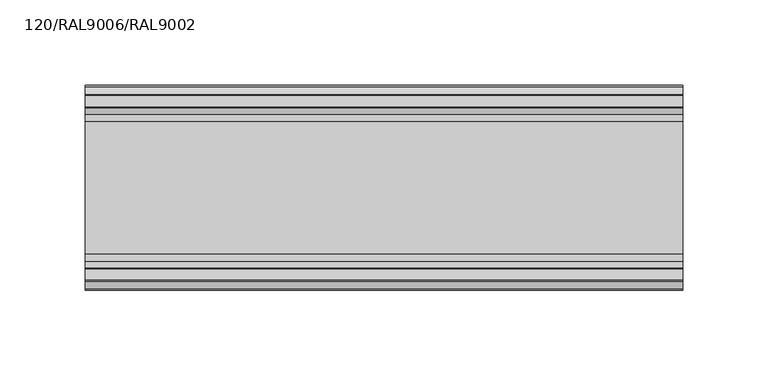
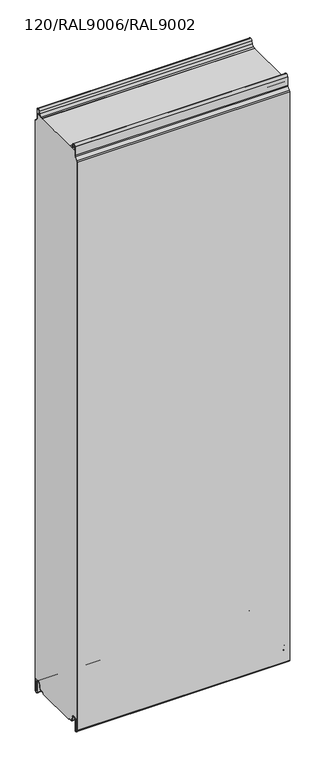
"""IFC4 building model written with IfcOpenShell, lengths in millimetres: plate geometry, TR_C_H_FTV_Panel : 120/RAL9006/RAL9002."""

from ifc_helpers import new_model, si_unit, point, frame, frame_2d, origin, place, context, project, spatial, polyline, circle_curve, trimmed, segment, composite_curve, outline, extrude, source, transform, mapped, element, save


def plate_120_ral9006_ral9002_3762bd6a(model_context):
    return source(origin(), model_context, "Body", "SweptSolid", [
        extrude(outline(composite_curve([segment(polyline([(-0.8, 14.4000012), (-9.45, 14.4000012)]), True, "CONTINUOUS"), segment(trimmed(circle_curve(frame_2d((-9.45, 10.1500012)), 4.25), [point((-9.45, 14.4000012))], [point((-13.635433, 10.8880059))], True, "CARTESIAN"), True, "CONTINUOUS"), segment(polyline([(-13.635433, 10.8880059), (-14.7022582, 4.837739)]), True, "CONTINUOUS"), segment(trimmed(circle_curve(frame_2d((-17.6074411, 5.3500012)), 2.95), [point((-14.7022582, 4.837739))], [point((-17.6074411, 2.4000012))], False, "CARTESIAN"), True, "CONTINUOUS"), segment(polyline([(-17.6074411, 2.4000012), (-23.7, 2.4000012), (-23.7, 1.2e-06), (-96.3, 1.2e-06), (-96.3, 2.4000012), (-102.3925589, 2.4000012)]), True, "CONTINUOUS"), segment(trimmed(circle_curve(frame_2d((-102.3925589, 5.3500012)), 2.95), [point((-102.3925589, 2.4000012))], [point((-105.2977418, 4.837739))], False, "CARTESIAN"), True, "CONTINUOUS"), segment(polyline([(-105.2977418, 4.837739), (-106.364567, 10.8880059)]), True, "CONTINUOUS"), segment(trimmed(circle_curve(frame_2d((-110.55, 10.1500012)), 4.25), [point((-106.364567, 10.8880059))], [point((-110.55, 14.4000012))], True, "CARTESIAN"), True, "CONTINUOUS"), segment(polyline([(-110.55, 14.4000012), (-119.2, 14.4000012), (-119.2, 984.3218266)]), True, "CONTINUOUS"), segment(trimmed(circle_curve(frame_2d((-117.0, 984.3218266)), 2.2), [point((-119.2, 984.3218266))], [point((-118.5556349, 985.8774615))], False, "CARTESIAN"), True, "CONTINUOUS"), segment(polyline([(-118.5556349, 985.8774615), (-114.1665476, 990.2665488)]), True, "CONTINUOUS"), segment(trimmed(circle_curve(frame_2d((-116.5, 992.6000012)), 3.3), [point((-114.1665476, 990.2665488))], [point((-113.2, 992.6000012))], True, "CARTESIAN"), True, "CONTINUOUS"), segment(polyline([(-113.2, 992.6000012), (-113.2, 1000.0), (-6.8, 1000.0), (-6.8, 992.6000012)]), True, "CONTINUOUS"), segment(trimmed(circle_curve(frame_2d((-3.5, 992.6000012)), 3.3), [point((-6.8, 992.6000012))], [point((-5.8334524, 990.2665488))], True, "CARTESIAN"), True, "CONTINUOUS"), segment(polyline([(-5.8334524, 990.2665488), (-1.4443651, 985.8774615)]), True, "CONTINUOUS"), segment(trimmed(circle_curve(frame_2d((-3.0, 984.3218266)), 2.2), [point((-1.4443651, 985.8774615))], [point((-0.8, 984.3218266))], False, "CARTESIAN"), True, "CONTINUOUS"), segment(polyline([(-0.8, 984.3218266), (-0.8, 14.4000012)]), True, "CONTINUOUS")], self_intersect=False)), frame((-110.0, 0.0, 0.0), z_axis=(1.0, 0.0, 0.0), x_axis=(0.0, 1.0, 0.0)), (0.0, 0.0, 1.0), 350.0),
        extrude(outline(composite_curve([segment(polyline([(-21.0, 2.4000012), (-17.6074411, 2.4000012)]), True, "CONTINUOUS"), segment(trimmed(circle_curve(frame_2d((-17.6074411, 5.3500012)), 2.95), [point((-17.6074411, 2.4000012))], [point((-14.7022582, 4.837739))], True, "CARTESIAN"), True, "CONTINUOUS"), segment(polyline([(-14.7022582, 4.837739), (-13.635433, 10.8880059)]), True, "CONTINUOUS"), segment(trimmed(circle_curve(frame_2d((-9.45, 10.1500012)), 4.25), [point((-13.635433, 10.8880059))], [point((-5.2, 10.1500012))], False, "CARTESIAN"), True, "CONTINUOUS"), segment(polyline([(-5.2, 10.1500012), (-5.2, -7.4499988)]), True, "CONTINUOUS"), segment(trimmed(circle_curve(frame_2d((-4.05, -7.4499988)), 1.15), [point((-5.2, -7.4499988))], [point((-3.2368272, -8.2631716))], True, "CARTESIAN"), True, "CONTINUOUS"), segment(polyline([(-3.2368272, -8.2631716), (-1.3711418, -6.3974862)]), True, "CONTINUOUS"), segment(trimmed(circle_curve(frame_2d((-2.75, -5.018628)), 1.95), [point((-1.3711418, -6.3974862))], [point((-0.8, -5.018628))], True, "CARTESIAN"), True, "CONTINUOUS"), segment(polyline([(-0.8, -5.018628), (-0.8, 984.3218266)]), True, "CONTINUOUS"), segment(trimmed(circle_curve(frame_2d((-3.0, 984.3218266)), 2.2), [point((-0.8, 984.3218266))], [point((-1.4443651, 985.8774615))], True, "CARTESIAN"), True, "CONTINUOUS"), segment(polyline([(-1.4443651, 985.8774615), (-5.8334524, 990.2665488)]), True, "CONTINUOUS"), segment(trimmed(circle_curve(frame_2d((-3.5, 992.6000012)), 3.3), [point((-5.8334524, 990.2665488))], [point((-6.8, 992.6000012))], False, "CARTESIAN"), True, "CONTINUOUS"), segment(polyline([(-6.8, 992.6000012), (-6.8, 1007.3500012)]), True, "CONTINUOUS"), segment(trimmed(circle_curve(frame_2d((-9.25, 1007.3500012)), 2.45), [point((-6.8, 1007.3500012))], [point((-11.662779, 1007.7754392))], True, "CARTESIAN"), True, "CONTINUOUS"), segment(polyline([(-11.662779, 1007.7754392), (-12.4060919, 1003.559902)]), True, "CONTINUOUS"), segment(trimmed(circle_curve(frame_2d((-16.8869672, 1004.3500012)), 4.55), [point((-12.4060919, 1003.559902))], [point((-16.8869672, 999.8000012))], False, "CARTESIAN"), True, "CONTINUOUS"), segment(polyline([(-16.8869672, 999.8000012), (-21.0, 999.8000012), (-21.0, 1000.6000012), (-16.8869672, 1000.6000012)]), True, "CONTINUOUS"), segment(trimmed(circle_curve(frame_2d((-16.8869672, 1004.3500012)), 3.75), [point((-16.8869672, 1000.6000012))], [point((-13.1939382, 1003.6988205))], True, "CARTESIAN"), True, "CONTINUOUS"), segment(polyline([(-13.1939382, 1003.6988205), (-12.4506252, 1007.9143577)]), True, "CONTINUOUS"), segment(trimmed(circle_curve(frame_2d((-9.25, 1007.3500012)), 3.25), [point((-12.4506252, 1007.9143577))], [point((-6.0, 1007.3500012))], False, "CARTESIAN"), True, "CONTINUOUS"), segment(polyline([(-6.0, 1007.3500012), (-6.0, 992.6000012)]), True, "CONTINUOUS"), segment(trimmed(circle_curve(frame_2d((-3.5, 992.6000012)), 2.5), [point((-6.0, 992.6000012))], [point((-5.267767, 990.8322342))], True, "CARTESIAN"), True, "CONTINUOUS"), segment(polyline([(-5.267767, 990.8322342), (-0.8786797, 986.4431469)]), True, "CONTINUOUS"), segment(trimmed(circle_curve(frame_2d((-3.0, 984.3218266)), 3.0), [point((-0.8786797, 986.4431469))], [point((0.0, 984.3218266))], False, "CARTESIAN"), True, "CONTINUOUS"), segment(polyline([(0.0, 984.3218266), (0.0, -5.018628)]), True, "CONTINUOUS"), segment(trimmed(circle_curve(frame_2d((-2.75, -5.018628)), 2.75), [point((0.0, -5.018628))], [point((-0.8054564, -6.9631716))], False, "CARTESIAN"), True, "CONTINUOUS"), segment(polyline([(-0.8054564, -6.9631716), (-2.6711418, -8.8288571)]), True, "CONTINUOUS"), segment(trimmed(circle_curve(frame_2d((-4.05, -7.4499988)), 1.95), [point((-2.6711418, -8.8288571))], [point((-6.0, -7.4499988))], False, "CARTESIAN"), True, "CONTINUOUS"), segment(polyline([(-6.0, -7.4499988), (-6.0, 10.1500012)]), True, "CONTINUOUS"), segment(trimmed(circle_curve(frame_2d((-9.45, 10.1500012)), 3.45), [point((-6.0, 10.1500012))], [point((-12.8475867, 10.7490874))], True, "CARTESIAN"), True, "CONTINUOUS"), segment(polyline([(-12.8475867, 10.7490874), (-13.914412, 4.6988205)]), True, "CONTINUOUS"), segment(trimmed(circle_curve(frame_2d((-17.6074411, 5.3500012)), 3.75), [point((-13.914412, 4.6988205))], [point((-17.6074411, 1.6000012))], False, "CARTESIAN"), True, "CONTINUOUS"), segment(polyline([(-17.6074411, 1.6000012), (-21.0, 1.6000012), (-21.0, 2.4000012)]), True, "CONTINUOUS")], self_intersect=False)), frame((-110.0, 0.0, 0.0), z_axis=(1.0, 0.0, 0.0), x_axis=(0.0, 1.0, 0.0)), (0.0, 0.0, 1.0), 350.0),
        extrude(outline(composite_curve([segment(trimmed(circle_curve(frame_2d((-103.1130328, 1004.3500012)), 4.55), [point((-103.1130328, 999.8000012))], [point((-107.5939081, 1003.559902))], False, "CARTESIAN"), True, "CONTINUOUS"), segment(polyline([(-107.5939081, 1003.559902), (-108.337221, 1007.7754392)]), True, "CONTINUOUS"), segment(trimmed(circle_curve(frame_2d((-110.75, 1007.3500012)), 2.45), [point((-108.337221, 1007.7754392))], [point((-113.2, 1007.3500012))], True, "CARTESIAN"), True, "CONTINUOUS"), segment(polyline([(-113.2, 1007.3500012), (-113.2, 992.6000012)]), True, "CONTINUOUS"), segment(trimmed(circle_curve(frame_2d((-116.5, 992.6000012)), 3.3), [point((-113.2, 992.6000012))], [point((-114.1665476, 990.2665488))], False, "CARTESIAN"), True, "CONTINUOUS"), segment(polyline([(-114.1665476, 990.2665488), (-118.5556349, 985.8774615)]), True, "CONTINUOUS"), segment(trimmed(circle_curve(frame_2d((-117.0, 984.3218266)), 2.2), [point((-118.5556349, 985.8774615))], [point((-119.2, 984.3218266))], True, "CARTESIAN"), True, "CONTINUOUS"), segment(polyline([(-119.2, 984.3218266), (-119.2, -5.018628)]), True, "CONTINUOUS"), segment(trimmed(circle_curve(frame_2d((-117.25, -5.018628)), 1.95), [point((-119.2, -5.018628))], [point((-118.6288582, -6.3974862))], True, "CARTESIAN"), True, "CONTINUOUS"), segment(polyline([(-118.6288582, -6.3974862), (-116.7631728, -8.2631716)]), True, "CONTINUOUS"), segment(trimmed(circle_curve(frame_2d((-115.95, -7.4499988)), 1.15), [point((-116.7631728, -8.2631716))], [point((-114.8, -7.4499988))], True, "CARTESIAN"), True, "CONTINUOUS"), segment(polyline([(-114.8, -7.4499988), (-114.8, 10.1500012)]), True, "CONTINUOUS"), segment(trimmed(circle_curve(frame_2d((-110.55, 10.1500012)), 4.25), [point((-114.8, 10.1500012))], [point((-106.364567, 10.8880059))], False, "CARTESIAN"), True, "CONTINUOUS"), segment(polyline([(-106.364567, 10.8880059), (-105.2977418, 4.837739)]), True, "CONTINUOUS"), segment(trimmed(circle_curve(frame_2d((-102.3925589, 5.3500012)), 2.95), [point((-105.2977418, 4.837739))], [point((-102.3925589, 2.4000012))], True, "CARTESIAN"), True, "CONTINUOUS"), segment(polyline([(-102.3925589, 2.4000012), (-99.0, 2.4000012), (-99.0, 1.6000012), (-102.3925589, 1.6000012)]), True, "CONTINUOUS"), segment(trimmed(circle_curve(frame_2d((-102.3925589, 5.3500012)), 3.75), [point((-102.3925589, 1.6000012))], [point((-106.085588, 4.6988205))], False, "CARTESIAN"), True, "CONTINUOUS"), segment(polyline([(-106.085588, 4.6988205), (-107.1524133, 10.7490874)]), True, "CONTINUOUS"), segment(trimmed(circle_curve(frame_2d((-110.55, 10.1500012)), 3.45), [point((-107.1524133, 10.7490874))], [point((-114.0, 10.1500012))], True, "CARTESIAN"), True, "CONTINUOUS"), segment(polyline([(-114.0, 10.1500012), (-114.0, -7.4499988)]), True, "CONTINUOUS"), segment(trimmed(circle_curve(frame_2d((-115.95, -7.4499988)), 1.95), [point((-114.0, -7.4499988))], [point((-117.3288582, -8.8288571))], False, "CARTESIAN"), True, "CONTINUOUS"), segment(polyline([(-117.3288582, -8.8288571), (-119.1945436, -6.9631716)]), True, "CONTINUOUS"), segment(trimmed(circle_curve(frame_2d((-117.25, -5.018628)), 2.75), [point((-119.1945436, -6.9631716))], [point((-120.0, -5.018628))], False, "CARTESIAN"), True, "CONTINUOUS"), segment(polyline([(-120.0, -5.018628), (-120.0, 984.3218266)]), True, "CONTINUOUS"), segment(trimmed(circle_curve(frame_2d((-117.0, 984.3218266)), 3.0), [point((-120.0, 984.3218266))], [point((-119.1213203, 986.4431469))], False, "CARTESIAN"), True, "CONTINUOUS"), segment(polyline([(-119.1213203, 986.4431469), (-114.732233, 990.8322342)]), True, "CONTINUOUS"), segment(trimmed(circle_curve(frame_2d((-116.5, 992.6000012)), 2.5), [point((-114.732233, 990.8322342))], [point((-114.0, 992.6000012))], True, "CARTESIAN"), True, "CONTINUOUS"), segment(polyline([(-114.0, 992.6000012), (-114.0, 1007.3500012)]), True, "CONTINUOUS"), segment(trimmed(circle_curve(frame_2d((-110.75, 1007.3500012)), 3.25), [point((-114.0, 1007.3500012))], [point((-107.5493748, 1007.9143577))], False, "CARTESIAN"), True, "CONTINUOUS"), segment(polyline([(-107.5493748, 1007.9143577), (-106.8060618, 1003.6988205)]), True, "CONTINUOUS"), segment(trimmed(circle_curve(frame_2d((-103.1130328, 1004.3500012)), 3.75), [point((-106.8060618, 1003.6988205))], [point((-103.1130328, 1000.6000012))], True, "CARTESIAN"), True, "CONTINUOUS"), segment(polyline([(-103.1130328, 1000.6000012), (-99.0, 1000.6000012), (-99.0, 999.8000012), (-103.1130328, 999.8000012)]), True, "CONTINUOUS")], self_intersect=False)), frame((-110.0, 0.0, 0.0), z_axis=(1.0, 0.0, 0.0), x_axis=(0.0, 1.0, 0.0)), (0.0, 0.0, 1.0), 350.0),
    ])


if __name__ == "__main__":
    model = new_model("IFC4")
    model_context = context("Model", 3, world=origin())
    ifc_project = project(units=[si_unit("LENGTHUNIT", "METRE", prefix="MILLI")], contexts=[model_context])
    site = spatial("IfcSite", under=ifc_project)
    building = spatial("IfcBuilding", under=site)
    placement = place(None, origin())
    plate_120_ral9006_ral9002_shape = plate_120_ral9006_ral9002_3762bd6a(model_context)
    element("IfcPlate", 1, ObjectType="TR_C_H_FTV_Panel : 120/RAL9006/RAL9002", at=placement, inside=building, context=model_context, shape_type="MappedRepresentation", body=[
        mapped(plate_120_ral9006_ral9002_shape, transform((0.0, 0.0, 0.0), x_axis=(1.0, 0.0, 0.0), y_axis=(0.0, 1.0, 0.0), z_axis=(0.0, 0.0, 1.0))),
    ])
    save(model, "model.ifc")
